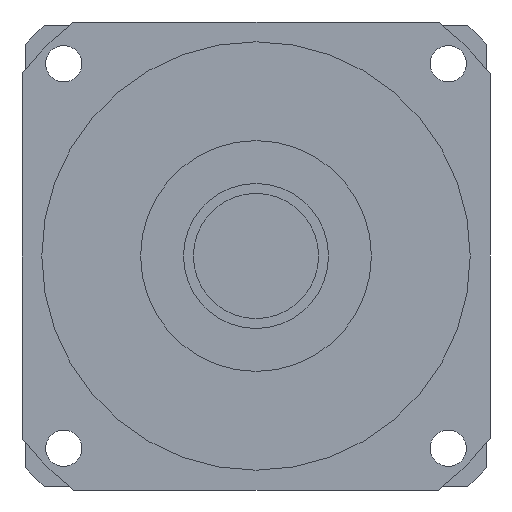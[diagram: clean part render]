
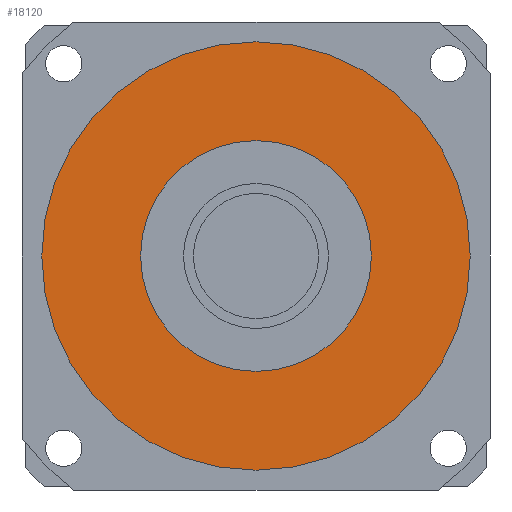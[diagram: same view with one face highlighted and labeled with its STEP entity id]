
A CAD part, left-side view. The second image highlights one B-rep face of the part: STEP entity #18120.
In plain terms, the highlighted planar face has unit normal (-1, 0, 0) as drawn and (0, 0, -1) by its records, which use the part's own axes.
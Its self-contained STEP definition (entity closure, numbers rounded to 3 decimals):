
#17540=CARTESIAN_POINT('',(65.,0.,-80.2));
#17550=VERTEX_POINT('',#17540);
#17640=CARTESIAN_POINT('',(-65.,0.,-80.2));
#17650=VERTEX_POINT('',#17640);
#17680=CARTESIAN_POINT('',(0.,0.,
-80.2));
#17690=DIRECTION('',(0.,0.,1.));
#17700=DIRECTION('',(0.,1.,0.));
#17710=AXIS2_PLACEMENT_3D('',#17680,#17690,#17700);
#17720=CIRCLE('',#17710,65.);
#17730=CARTESIAN_POINT('',(0.,65.,-80.2));
#17740=VERTEX_POINT('',#17730);
#17750=EDGE_CURVE('',#17740,#17650,#17720,.T.);
#17770=EDGE_CURVE('',#17550,#17740,#17720,.T.);
#17820=CARTESIAN_POINT('',(0.,0.,
-80.2));
#17830=DIRECTION('',(0.,0.,1.));
#17840=DIRECTION('',(-1.,0.,0.));
#17850=AXIS2_PLACEMENT_3D('',#17820,#17830,#17840);
#17860=PLANE('',#17850);
#17870=CARTESIAN_POINT('',(0.,0.,
-80.2));
#17880=DIRECTION('',(0.,0.,1.));
#17890=DIRECTION('',(0.,1.,0.));
#17900=AXIS2_PLACEMENT_3D('',#17870,#17880,#17890);
#17910=CIRCLE('',#17900,35.);
#17920=CARTESIAN_POINT('',(-35.,0.,-80.2));
#17930=VERTEX_POINT('',#17920);
#17940=CARTESIAN_POINT('',(35.,0.,-80.2));
#17950=VERTEX_POINT('',#17940);
#17960=EDGE_CURVE('',#17930,#17950,#17910,.T.);
#17970=ORIENTED_EDGE('',*,*,#17960,.T.);
#17980=CARTESIAN_POINT('',(0.,35.,-80.2));
#17990=VERTEX_POINT('',#17980);
#18000=EDGE_CURVE('',#17990,#17930,#17910,.T.);
#18010=ORIENTED_EDGE('',*,*,#18000,.T.);
#18020=EDGE_CURVE('',#17950,#17990,#17910,.T.);
#18030=ORIENTED_EDGE('',*,*,#18020,.T.);
#18040=EDGE_LOOP('',(#18030,#18010,#17970));
#18050=FACE_BOUND('',#18040,.T.);
#18060=ORIENTED_EDGE('',*,*,#17750,.F.);
#18070=EDGE_CURVE('',#17650,#17550,#17720,.T.);
#18080=ORIENTED_EDGE('',*,*,#18070,.F.);
#18090=ORIENTED_EDGE('',*,*,#17770,.F.);
#18100=EDGE_LOOP('',(#18090,#18080,#18060));
#18110=FACE_OUTER_BOUND('',#18100,.T.);
#18120=ADVANCED_FACE('',(#18050,#18110),#17860,.F.);
